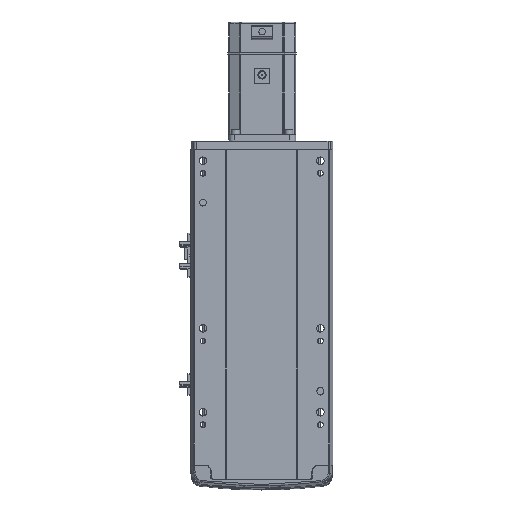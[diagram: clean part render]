
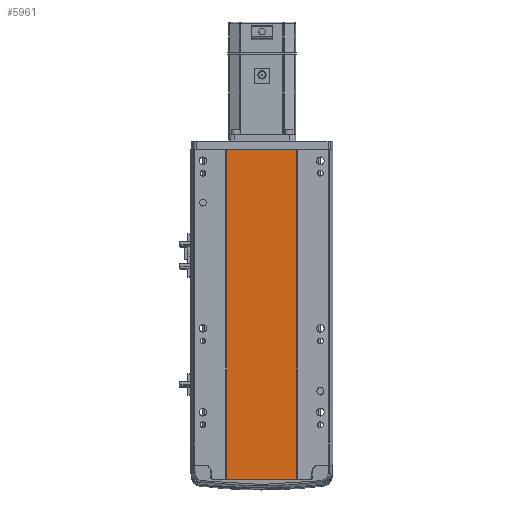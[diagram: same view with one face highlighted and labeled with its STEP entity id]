
A CAD part, front view. The second image highlights one B-rep face of the part: STEP entity #5961.
In plain terms, the highlighted planar face has unit normal (0, -1, 0).
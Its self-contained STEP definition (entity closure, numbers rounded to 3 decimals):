
#316 = CARTESIAN_POINT ( 'NONE',  ( -41.791, 1., 0. ) ) ;
#3239 = ORIENTED_EDGE ( 'NONE', *, *, #6658, .F. ) ;
#4085 = LINE ( 'NONE', #21789, #42010 ) ;
#4097 = VERTEX_POINT ( 'NONE', #49873 ) ;
#5961 = ADVANCED_FACE ( 'NONE', ( #50466 ), #22763, .F. ) ;
#6658 = EDGE_CURVE ( 'NONE', #35881, #4097, #50691, .T. ) ;
#7309 = CARTESIAN_POINT ( 'NONE',  ( 41.793, 0.998, 393.5 ) ) ;
#9984 = CARTESIAN_POINT ( 'NONE',  ( 0., 0.999, 393.5 ) ) ;
#10427 = VECTOR ( 'NONE', #50615, 1000. ) ;
#11781 = VECTOR ( 'NONE', #45042, 1000. ) ;
#14735 = DIRECTION ( 'NONE',  ( 0., 1., 0. ) ) ;
#15794 = VECTOR ( 'NONE', #41613, 1000. ) ;
#18322 = VERTEX_POINT ( 'NONE', #316 ) ;
#20256 = ORIENTED_EDGE ( 'NONE', *, *, #20435, .T. ) ;
#20435 = EDGE_CURVE ( 'NONE', #35881, #18322, #4085, .T. ) ;
#21789 = CARTESIAN_POINT ( 'NONE',  ( -41.791, 1., 393.5 ) ) ;
#22763 = PLANE ( 'NONE',  #34245 ) ;
#24170 = ORIENTED_EDGE ( 'NONE', *, *, #45869, .F. ) ;
#26680 = CARTESIAN_POINT ( 'NONE',  ( -41.791, 1., 393.5 ) ) ;
#28546 = EDGE_CURVE ( 'NONE', #18322, #49172, #50338, .T. ) ;
#28819 = DIRECTION ( 'NONE',  ( 0., 0., -1. ) ) ;
#30123 = DIRECTION ( 'NONE',  ( -1., 0., 0. ) ) ;
#31519 = ORIENTED_EDGE ( 'NONE', *, *, #28546, .T. ) ;
#32366 = CARTESIAN_POINT ( 'NONE',  ( 41.793, 0.998, 0. ) ) ;
#34245 = AXIS2_PLACEMENT_3D ( 'NONE', #38156, #14735, #30123 ) ;
#35881 = VERTEX_POINT ( 'NONE', #26680 ) ;
#36375 = EDGE_LOOP ( 'NONE', ( #31519, #24170, #3239, #20256 ) ) ;
#38156 = CARTESIAN_POINT ( 'NONE',  ( 0., 0.999, 393.5 ) ) ;
#41613 = DIRECTION ( 'NONE',  ( 1., 0., 0. ) ) ;
#42010 = VECTOR ( 'NONE', #28819, 1000. ) ;
#44105 = LINE ( 'NONE', #7309, #10427 ) ;
#45042 = DIRECTION ( 'NONE',  ( 1., 0., 0. ) ) ;
#45734 = CARTESIAN_POINT ( 'NONE',  ( 0., 0.999, 0. ) ) ;
#45869 = EDGE_CURVE ( 'NONE', #4097, #49172, #44105, .T. ) ;
#49172 = VERTEX_POINT ( 'NONE', #32366 ) ;
#49873 = CARTESIAN_POINT ( 'NONE',  ( 41.793, 0.998, 393.5 ) ) ;
#50338 = LINE ( 'NONE', #45734, #11781 ) ;
#50466 = FACE_OUTER_BOUND ( 'NONE', #36375, .T. ) ;
#50615 = DIRECTION ( 'NONE',  ( 0., 0., -1. ) ) ;
#50691 = LINE ( 'NONE', #9984, #15794 ) ;
